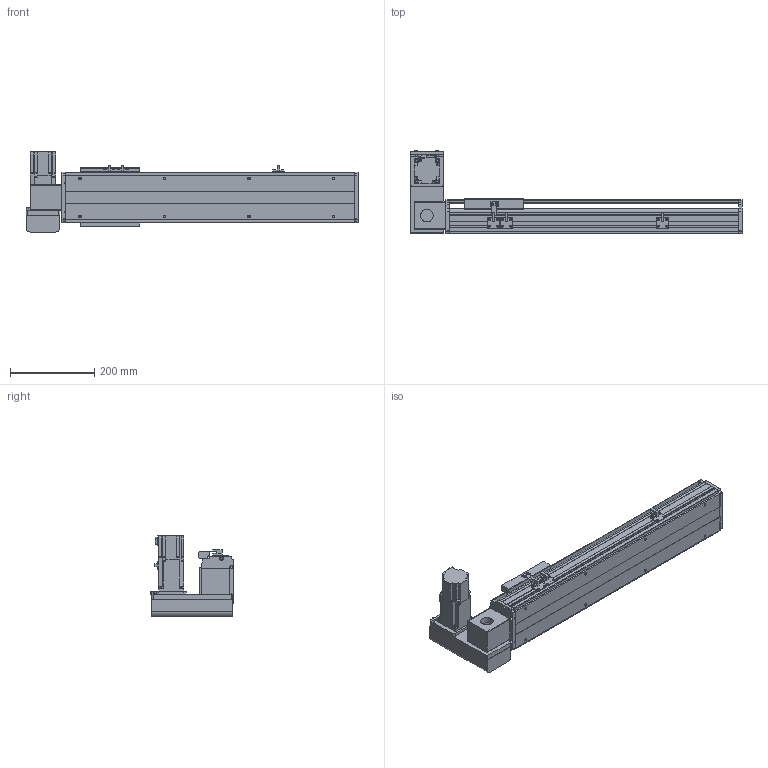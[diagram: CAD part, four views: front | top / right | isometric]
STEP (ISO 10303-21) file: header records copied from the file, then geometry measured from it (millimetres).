
FILE_DESCRIPTION(/* description */ ('STEP AP214'),/* implementation_level */ '2;1');
FILE_NAME(/* name */ 'PBS120-P40-S400-LU-T40-C1-N(0)',/* time_stamp */ '2022-06-06T02:30:19+02:00',/* author */ ('License CC BY-ND 4.0'),/* organization */ ('CADENAS'),/* preprocessor_version */ 'ST-DEVELOPER v18.102',/* originating_system */ 'PARTsolutions',/* authorisation */ ' ');
FILE_SCHEMA (('AUTOMOTIVE_DESIGN {1 0 10303 214 3 1 1}'));
Length unit declared in the file: millimetre
Products named in the file (7): PBS120-P40-S400-LU-T40-C1-N(0); PBS120_sensor; PBS120_plant; PBS120_sliser; T40-p1; PBS120T-LU_motors; PBS120-S400()_body
Assembly tree (8 placements, depth 2):
  PBS120-P40-S400-LU-T40-C1-N(0)
    PBS120_sensor  x3
    PBS120_plant
    PBS120_sliser
    T40-p1
    PBS120T-LU_motors
    PBS120-S400()_body
Bounding box: 786 x 198 x 189.7 mm (x, y, z)
Volume: 4008430.8 mm3; surface area: 732757.3 mm2
Topology: 8 solids, 8 shells, 804 faces, 2116 edges, 1363 vertices
Faces by surface type: plane 541, cylinder 221, cone 40, torus 2
Full cylindrical faces by diameter (mm): 2.459 x6, 3.242 x4, 4 x2, 4.134 x4, 4.5 x10, 4.917 x12, 5.5 x11, 6 x2, 6.6 x1, 7 x2, 8.5 x4, 9 x4, 12 x1, 14 x1, 30 x2, 40 x1, 50 x2
Entity records: 21114 total; most frequent: DIRECTION 3644, CARTESIAN_POINT 3605, ORIENTED_EDGE 3454, EDGE_CURVE 1727, LINE 1228, VECTOR 1228, AXIS2_PLACEMENT_3D 1208, VERTEX_POINT 1169
